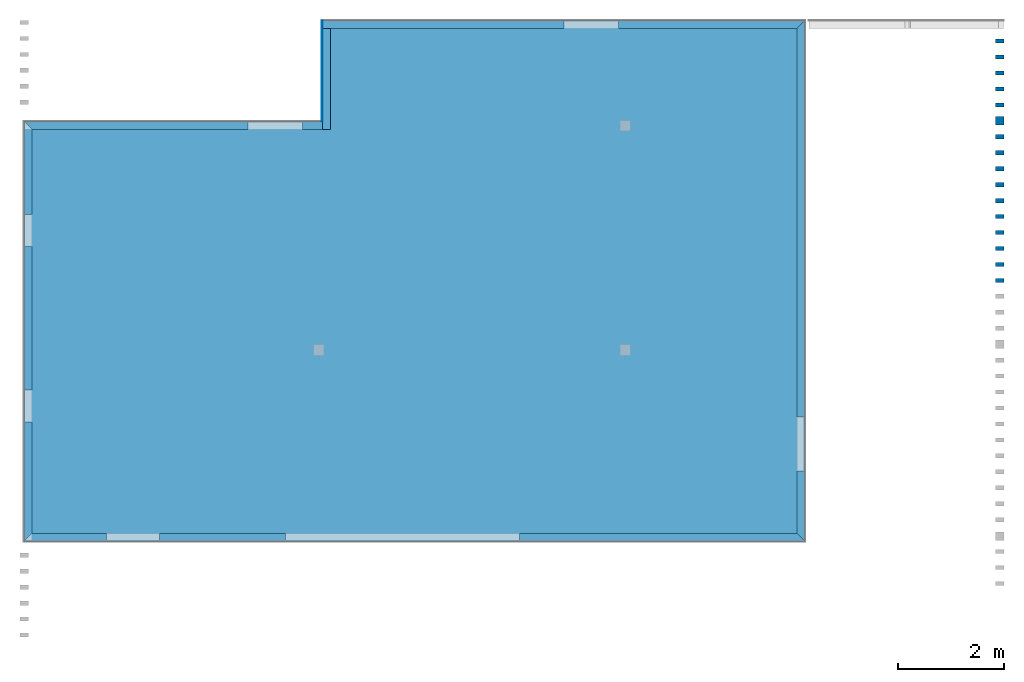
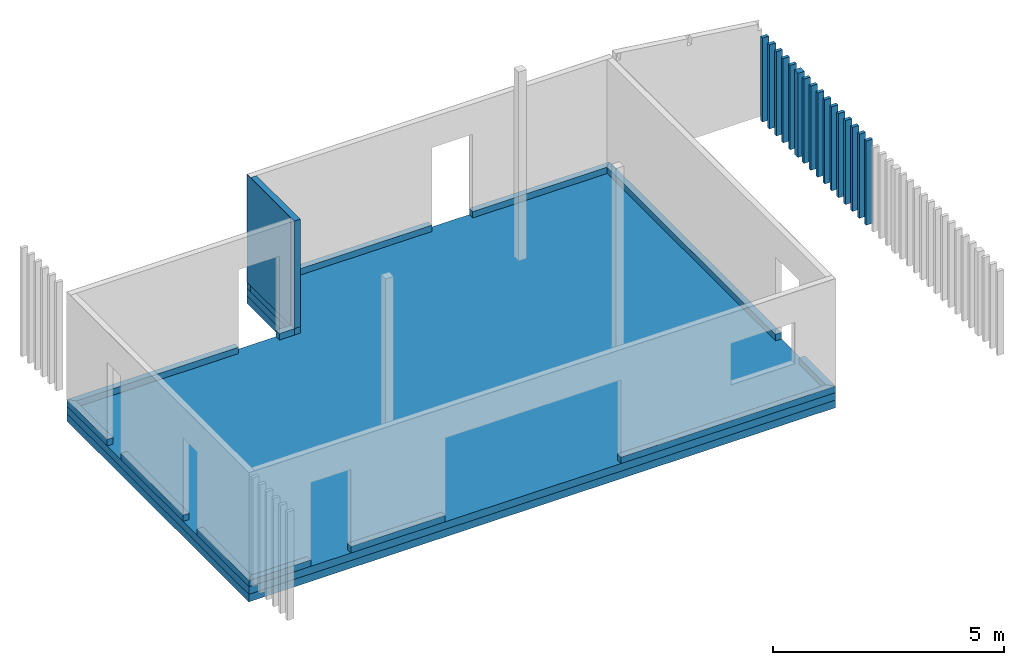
# One storey, part 2 of 3: 16 columns, 6 walls, 4 building element parts, 3 openings, 2 elements without a shape of their own.
"""IFC4 building model written with IfcOpenShell, lengths in centimetres."""

from ifc_helpers import new_model, entity, si_unit, converted_unit, derived_unit, direction, frame, origin, place, context, subcontext, project, spatial, indexed_curve, outline, extrude, polygons, source, transform, mapped, material, type_object, type_shapes, element, aggregate, save


model = new_model("IFC4")

# Units and contexts
model_context = context("Model", 3, precision=0.001, world=origin(), true_north=direction((6.123233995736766e-17, 1.0)))
body_context = subcontext(model_context, "Body", "Model", "MODEL_VIEW")
ifc_project = project(units=[si_unit("LENGTHUNIT", "METRE", prefix="CENTI"), si_unit("AREAUNIT", "SQUARE_METRE"), converted_unit("PLANEANGLEUNIT", "DEGREE", entity("IfcPlaneAngleMeasure", 0.017453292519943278), si_unit("PLANEANGLEUNIT", "RADIAN"), dimensions=[0, 0, 0, 0, 0, 0, 0]), si_unit("VOLUMEUNIT", "CUBIC_METRE"), derived_unit("THERMALTRANSMITTANCEUNIT", [(si_unit("MASSUNIT", "GRAM", prefix="KILO"), 1), (si_unit("THERMODYNAMICTEMPERATUREUNIT", "KELVIN"), -1), (si_unit("TIMEUNIT", "SECOND"), -3)])], contexts=[model_context])

# Site, building, storey
site_placement = place(None, frame((-0.003347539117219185, 0.0, 0.0)))
site = spatial("IfcSite", under=ifc_project, at=site_placement, Name="Default", CompositionType="ELEMENT")
building_placement = place(site_placement, origin())
building = spatial("IfcBuilding", under=site, at=building_placement, CompositionType="ELEMENT")
storey_placement = place(building_placement, frame((0.0, 0.0, 31.0)))
storey = spatial("IfcBuildingStorey", under=building, at=storey_placement, Name="± 0.000", CompositionType="ELEMENT", Elevation=31.000000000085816)

# Columns
ifc_material_1 = material(Name="BM - Douglas", Category="Bois")
column_type_1 = type_object("IfcColumnType", Name="Poteau - Bois d'oeuvre:160x160", PredefinedType="COLUMN", material=ifc_material_1)
shared_shape_1 = source(origin(), body_context, "Body", "SweptSolid", [
    extrude(outline(indexed_curve([(-7.999999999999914, -7.999999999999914), (7.999999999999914, -7.999999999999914), (7.999999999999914, 8.00000000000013), (-7.999999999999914, 8.00000000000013), (-7.999999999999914, -7.999999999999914)], self_intersect=False)), frame((-4953.586652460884, -1881.8758849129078, 51.0), z_axis=(0.0, 0.0, 1.0), x_axis=(-1.0, 0.0, 0.0)), (0.0, 0.0, 1.0), 222.99999999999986),
])
type_shapes(column_type_1, [shared_shape_1])
column_1_placement = place(storey_placement, frame((0.0, 0.0, -31.0)))
element("IfcColumn", 1, at=column_1_placement, inside=storey, type_object=column_type_1, material=ifc_material_1, Name="Poteau - Bois d'oeuvre:160x160", ObjectType="Poteau - Bois d'oeuvre:160x160", PredefinedType="COLUMN", context=body_context, shape_type="MappedRepresentation", body=[
    mapped(shared_shape_1, transform((0.0, 0.0, 0.0), scale=1.0)),
])
column_type_2 = type_object("IfcColumnType", Name="Poteau - Bois d'oeuvre:160x80", PredefinedType="COLUMN", material=ifc_material_1)
shared_shape_2 = source(origin(), body_context, "Body", "SweptSolid", [
    extrude(outline(indexed_curve([(-7.999999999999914, -3.999999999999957), (7.999999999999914, -3.999999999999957), (7.999999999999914, 3.999999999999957), (-7.999999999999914, 3.999999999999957), (-7.999999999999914, -3.999999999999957)], self_intersect=False)), frame((-4953.586652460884, -2181.875884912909, 51.0), z_axis=(0.0, 0.0, 1.0), x_axis=(-1.0, 0.0, 0.0)), (0.0, 0.0, 1.0), 222.99999999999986),
])
type_shapes(column_type_2, [shared_shape_2])
column_2_placement = place(storey_placement, frame((0.0, 0.0, -31.0)))
element("IfcColumn", 2, at=column_2_placement, inside=storey, type_object=column_type_2, material=ifc_material_1, Name="Poteau - Bois d'oeuvre:160x80", ObjectType="Poteau - Bois d'oeuvre:160x80", PredefinedType="COLUMN", context=body_context, shape_type="MappedRepresentation", body=[
    mapped(shared_shape_2, transform((0.0, 0.0, 0.0), scale=1.0)),
])
column_type_3 = type_object("IfcColumnType", Name="Poteau - Bois d'oeuvre:160x80", PredefinedType="COLUMN", material=ifc_material_1)
shared_shape_3 = source(origin(), body_context, "Body", "SweptSolid", [
    extrude(outline(indexed_curve([(-7.999999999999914, -3.999999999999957), (7.999999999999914, -3.999999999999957), (7.999999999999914, 3.999999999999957), (-7.999999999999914, 3.999999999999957), (-7.999999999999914, -3.999999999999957)], self_intersect=False)), frame((-4953.586652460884, -2151.8758849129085, 51.0), z_axis=(0.0, 0.0, 1.0), x_axis=(-1.0, 0.0, 0.0)), (0.0, 0.0, 1.0), 222.99999999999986),
])
type_shapes(column_type_3, [shared_shape_3])
column_3_placement = place(storey_placement, frame((0.0, 0.0, -31.0)))
element("IfcColumn", 3, at=column_3_placement, inside=storey, type_object=column_type_3, material=ifc_material_1, Name="Poteau - Bois d'oeuvre:160x80", ObjectType="Poteau - Bois d'oeuvre:160x80", PredefinedType="COLUMN", context=body_context, shape_type="MappedRepresentation", body=[
    mapped(shared_shape_3, transform((0.0, 0.0, 0.0), scale=1.0)),
])
column_type_4 = type_object("IfcColumnType", Name="Poteau - Bois d'oeuvre:160x80", PredefinedType="COLUMN", material=ifc_material_1)
shared_shape_4 = source(origin(), body_context, "Body", "SweptSolid", [
    extrude(outline(indexed_curve([(-7.999999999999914, -3.999999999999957), (7.999999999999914, -3.999999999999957), (7.999999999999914, 3.999999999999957), (-7.999999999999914, 3.999999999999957), (-7.999999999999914, -3.999999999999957)], self_intersect=False)), frame((-4953.586652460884, -2121.8758849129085, 51.0), z_axis=(0.0, 0.0, 1.0), x_axis=(-1.0, 0.0, 0.0)), (0.0, 0.0, 1.0), 222.99999999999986),
])
type_shapes(column_type_4, [shared_shape_4])
column_4_placement = place(storey_placement, frame((0.0, 0.0, -31.0)))
element("IfcColumn", 4, at=column_4_placement, inside=storey, type_object=column_type_4, material=ifc_material_1, Name="Poteau - Bois d'oeuvre:160x80", ObjectType="Poteau - Bois d'oeuvre:160x80", PredefinedType="COLUMN", context=body_context, shape_type="MappedRepresentation", body=[
    mapped(shared_shape_4, transform((0.0, 0.0, 0.0), scale=1.0)),
])
column_type_5 = type_object("IfcColumnType", Name="Poteau - Bois d'oeuvre:160x80", PredefinedType="COLUMN", material=ifc_material_1)
shared_shape_5 = source(origin(), body_context, "Body", "SweptSolid", [
    extrude(outline(indexed_curve([(-7.999999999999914, -3.999999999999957), (7.999999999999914, -3.999999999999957), (7.999999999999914, 3.999999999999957), (-7.999999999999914, 3.999999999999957), (-7.999999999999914, -3.999999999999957)], self_intersect=False)), frame((-4953.586652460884, -2091.8758849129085, 51.0), z_axis=(0.0, 0.0, 1.0), x_axis=(-1.0, 0.0, 0.0)), (0.0, 0.0, 1.0), 222.99999999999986),
])
type_shapes(column_type_5, [shared_shape_5])
column_5_placement = place(storey_placement, frame((0.0, 0.0, -31.0)))
element("IfcColumn", 5, at=column_5_placement, inside=storey, type_object=column_type_5, material=ifc_material_1, Name="Poteau - Bois d'oeuvre:160x80", ObjectType="Poteau - Bois d'oeuvre:160x80", PredefinedType="COLUMN", context=body_context, shape_type="MappedRepresentation", body=[
    mapped(shared_shape_5, transform((0.0, 0.0, 0.0), scale=1.0)),
])
column_type_6 = type_object("IfcColumnType", Name="Poteau - Bois d'oeuvre:160x80", PredefinedType="COLUMN", material=ifc_material_1)
shared_shape_6 = source(origin(), body_context, "Body", "SweptSolid", [
    extrude(outline(indexed_curve([(-7.999999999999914, -3.999999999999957), (7.999999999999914, -3.999999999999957), (7.999999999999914, 3.999999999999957), (-7.999999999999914, 3.999999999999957), (-7.999999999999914, -3.999999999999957)], self_intersect=False)), frame((-4953.586652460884, -2061.8758849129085, 51.0), z_axis=(0.0, 0.0, 1.0), x_axis=(-1.0, 0.0, 0.0)), (0.0, 0.0, 1.0), 222.99999999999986),
])
type_shapes(column_type_6, [shared_shape_6])
column_6_placement = place(storey_placement, frame((0.0, 0.0, -31.0)))
element("IfcColumn", 6, at=column_6_placement, inside=storey, type_object=column_type_6, material=ifc_material_1, Name="Poteau - Bois d'oeuvre:160x80", ObjectType="Poteau - Bois d'oeuvre:160x80", PredefinedType="COLUMN", context=body_context, shape_type="MappedRepresentation", body=[
    mapped(shared_shape_6, transform((0.0, 0.0, 0.0), scale=1.0)),
])
column_type_7 = type_object("IfcColumnType", Name="Poteau - Bois d'oeuvre:160x80", PredefinedType="COLUMN", material=ifc_material_1)
shared_shape_7 = source(origin(), body_context, "Body", "SweptSolid", [
    extrude(outline(indexed_curve([(-7.999999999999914, -3.999999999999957), (7.999999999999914, -3.999999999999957), (7.999999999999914, 3.999999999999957), (-7.999999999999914, 3.999999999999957), (-7.999999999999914, -3.999999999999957)], self_intersect=False)), frame((-4953.586652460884, -2031.8758849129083, 51.0), z_axis=(0.0, 0.0, 1.0), x_axis=(-1.0, 0.0, 0.0)), (0.0, 0.0, 1.0), 222.99999999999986),
])
type_shapes(column_type_7, [shared_shape_7])
column_7_placement = place(storey_placement, frame((0.0, 0.0, -31.0)))
element("IfcColumn", 7, at=column_7_placement, inside=storey, type_object=column_type_7, material=ifc_material_1, Name="Poteau - Bois d'oeuvre:160x80", ObjectType="Poteau - Bois d'oeuvre:160x80", PredefinedType="COLUMN", context=body_context, shape_type="MappedRepresentation", body=[
    mapped(shared_shape_7, transform((0.0, 0.0, 0.0), scale=1.0)),
])
column_type_8 = type_object("IfcColumnType", Name="Poteau - Bois d'oeuvre:160x80", PredefinedType="COLUMN", material=ifc_material_1)
shared_shape_8 = source(origin(), body_context, "Body", "SweptSolid", [
    extrude(outline(indexed_curve([(-7.999999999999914, -3.999999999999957), (7.999999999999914, -3.999999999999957), (7.999999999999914, 3.999999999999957), (-7.999999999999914, 3.999999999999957), (-7.999999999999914, -3.999999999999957)], self_intersect=False)), frame((-4953.586652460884, -2001.875884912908, 51.0), z_axis=(0.0, 0.0, 1.0), x_axis=(-1.0, 0.0, 0.0)), (0.0, 0.0, 1.0), 222.99999999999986),
])
type_shapes(column_type_8, [shared_shape_8])
column_8_placement = place(storey_placement, frame((0.0, 0.0, -31.0)))
element("IfcColumn", 8, at=column_8_placement, inside=storey, type_object=column_type_8, material=ifc_material_1, Name="Poteau - Bois d'oeuvre:160x80", ObjectType="Poteau - Bois d'oeuvre:160x80", PredefinedType="COLUMN", context=body_context, shape_type="MappedRepresentation", body=[
    mapped(shared_shape_8, transform((0.0, 0.0, 0.0), scale=1.0)),
])
column_type_9 = type_object("IfcColumnType", Name="Poteau - Bois d'oeuvre:160x80", PredefinedType="COLUMN", material=ifc_material_1)
shared_shape_9 = source(origin(), body_context, "Body", "SweptSolid", [
    extrude(outline(indexed_curve([(-7.999999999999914, -3.999999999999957), (7.999999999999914, -3.999999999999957), (7.999999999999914, 3.999999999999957), (-7.999999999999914, 3.999999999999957), (-7.999999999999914, -3.999999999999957)], self_intersect=False)), frame((-4953.586652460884, -1971.875884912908, 51.0), z_axis=(0.0, 0.0, 1.0), x_axis=(-1.0, 0.0, 0.0)), (0.0, 0.0, 1.0), 222.99999999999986),
])
type_shapes(column_type_9, [shared_shape_9])
column_9_placement = place(storey_placement, frame((0.0, 0.0, -31.0)))
element("IfcColumn", 9, at=column_9_placement, inside=storey, type_object=column_type_9, material=ifc_material_1, Name="Poteau - Bois d'oeuvre:160x80", ObjectType="Poteau - Bois d'oeuvre:160x80", PredefinedType="COLUMN", context=body_context, shape_type="MappedRepresentation", body=[
    mapped(shared_shape_9, transform((0.0, 0.0, 0.0), scale=1.0)),
])
column_type_10 = type_object("IfcColumnType", Name="Poteau - Bois d'oeuvre:160x80", PredefinedType="COLUMN", material=ifc_material_1)
shared_shape_10 = source(origin(), body_context, "Body", "SweptSolid", [
    extrude(outline(indexed_curve([(-7.999999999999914, -3.999999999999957), (7.999999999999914, -3.999999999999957), (7.999999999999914, 3.999999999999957), (-7.999999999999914, 3.999999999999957), (-7.999999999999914, -3.999999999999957)], self_intersect=False)), frame((-4953.586652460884, -1941.875884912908, 51.0), z_axis=(0.0, 0.0, 1.0), x_axis=(-1.0, 0.0, 0.0)), (0.0, 0.0, 1.0), 222.99999999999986),
])
type_shapes(column_type_10, [shared_shape_10])
column_10_placement = place(storey_placement, frame((0.0, 0.0, -31.0)))
element("IfcColumn", 10, at=column_10_placement, inside=storey, type_object=column_type_10, material=ifc_material_1, Name="Poteau - Bois d'oeuvre:160x80", ObjectType="Poteau - Bois d'oeuvre:160x80", PredefinedType="COLUMN", context=body_context, shape_type="MappedRepresentation", body=[
    mapped(shared_shape_10, transform((0.0, 0.0, 0.0), scale=1.0)),
])
column_type_11 = type_object("IfcColumnType", Name="Poteau - Bois d'oeuvre:160x80", PredefinedType="COLUMN", material=ifc_material_1)
shared_shape_11 = source(origin(), body_context, "Body", "SweptSolid", [
    extrude(outline(indexed_curve([(-7.999999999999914, -3.999999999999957), (7.999999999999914, -3.999999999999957), (7.999999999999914, 3.999999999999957), (-7.999999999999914, 3.999999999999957), (-7.999999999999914, -3.999999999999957)], self_intersect=False)), frame((-4953.586652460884, -1911.8758849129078, 51.0), z_axis=(0.0, 0.0, 1.0), x_axis=(-1.0, 0.0, 0.0)), (0.0, 0.0, 1.0), 222.99999999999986),
])
type_shapes(column_type_11, [shared_shape_11])
column_11_placement = place(storey_placement, frame((0.0, 0.0, -31.0)))
element("IfcColumn", 11, at=column_11_placement, inside=storey, type_object=column_type_11, material=ifc_material_1, Name="Poteau - Bois d'oeuvre:160x80", ObjectType="Poteau - Bois d'oeuvre:160x80", PredefinedType="COLUMN", context=body_context, shape_type="MappedRepresentation", body=[
    mapped(shared_shape_11, transform((0.0, 0.0, 0.0), scale=1.0)),
])
column_type_12 = type_object("IfcColumnType", Name="Poteau - Bois d'oeuvre:160x80", PredefinedType="COLUMN", material=ifc_material_1)
shared_shape_12 = source(origin(), body_context, "Body", "SweptSolid", [
    extrude(outline(indexed_curve([(-7.999999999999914, -3.999999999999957), (7.999999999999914, -3.999999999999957), (7.999999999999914, 3.999999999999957), (-7.999999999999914, 3.999999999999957), (-7.999999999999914, -3.999999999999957)], self_intersect=False)), frame((-4953.586652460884, -1851.8758849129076, 51.0), z_axis=(0.0, 0.0, 1.0), x_axis=(-1.0, 0.0, 0.0)), (0.0, 0.0, 1.0), 222.99999999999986),
])
type_shapes(column_type_12, [shared_shape_12])
column_12_placement = place(storey_placement, frame((0.0, 0.0, -31.0)))
element("IfcColumn", 12, at=column_12_placement, inside=storey, type_object=column_type_12, material=ifc_material_1, Name="Poteau - Bois d'oeuvre:160x80", ObjectType="Poteau - Bois d'oeuvre:160x80", PredefinedType="COLUMN", context=body_context, shape_type="MappedRepresentation", body=[
    mapped(shared_shape_12, transform((0.0, 0.0, 0.0), scale=1.0)),
])
column_type_13 = type_object("IfcColumnType", Name="Poteau - Bois d'oeuvre:160x80", PredefinedType="COLUMN", material=ifc_material_1)
shared_shape_13 = source(origin(), body_context, "Body", "SweptSolid", [
    extrude(outline(indexed_curve([(-7.999999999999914, -3.999999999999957), (7.999999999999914, -3.999999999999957), (7.999999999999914, 3.999999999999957), (-7.999999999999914, 3.999999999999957), (-7.999999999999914, -3.999999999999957)], self_intersect=False)), frame((-4953.586652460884, -1821.8758849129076, 51.0), z_axis=(0.0, 0.0, 1.0), x_axis=(-1.0, 0.0, 0.0)), (0.0, 0.0, 1.0), 222.99999999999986),
])
type_shapes(column_type_13, [shared_shape_13])
column_13_placement = place(storey_placement, frame((0.0, 0.0, -31.0)))
element("IfcColumn", 13, at=column_13_placement, inside=storey, type_object=column_type_13, material=ifc_material_1, Name="Poteau - Bois d'oeuvre:160x80", ObjectType="Poteau - Bois d'oeuvre:160x80", PredefinedType="COLUMN", context=body_context, shape_type="MappedRepresentation", body=[
    mapped(shared_shape_13, transform((0.0, 0.0, 0.0), scale=1.0)),
])
column_type_14 = type_object("IfcColumnType", Name="Poteau - Bois d'oeuvre:160x80", PredefinedType="COLUMN", material=ifc_material_1)
shared_shape_14 = source(origin(), body_context, "Body", "SweptSolid", [
    extrude(outline(indexed_curve([(-7.999999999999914, -3.999999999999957), (7.999999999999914, -3.999999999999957), (7.999999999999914, 3.999999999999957), (-7.999999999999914, 3.999999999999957), (-7.999999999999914, -3.999999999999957)], self_intersect=False)), frame((-4953.586652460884, -1791.8758849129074, 51.0), z_axis=(0.0, 0.0, 1.0), x_axis=(-1.0, 0.0, 0.0)), (0.0, 0.0, 1.0), 222.99999999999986),
])
type_shapes(column_type_14, [shared_shape_14])
column_14_placement = place(storey_placement, frame((0.0, 0.0, -31.0)))
element("IfcColumn", 14, at=column_14_placement, inside=storey, type_object=column_type_14, material=ifc_material_1, Name="Poteau - Bois d'oeuvre:160x80", ObjectType="Poteau - Bois d'oeuvre:160x80", PredefinedType="COLUMN", context=body_context, shape_type="MappedRepresentation", body=[
    mapped(shared_shape_14, transform((0.0, 0.0, 0.0), scale=1.0)),
])
column_type_15 = type_object("IfcColumnType", Name="Poteau - Bois d'oeuvre:160x80", PredefinedType="COLUMN", material=ifc_material_1)
shared_shape_15 = source(origin(), body_context, "Body", "SweptSolid", [
    extrude(outline(indexed_curve([(-7.999999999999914, -3.999999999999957), (7.999999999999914, -3.999999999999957), (7.999999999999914, 3.999999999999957), (-7.999999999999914, 3.999999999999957), (-7.999999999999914, -3.999999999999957)], self_intersect=False)), frame((-4953.586652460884, -1761.8758849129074, 51.0), z_axis=(0.0, 0.0, 1.0), x_axis=(-1.0, 0.0, 0.0)), (0.0, 0.0, 1.0), 222.99999999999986),
])
type_shapes(column_type_15, [shared_shape_15])
column_15_placement = place(storey_placement, frame((0.0, 0.0, -31.0)))
element("IfcColumn", 15, at=column_15_placement, inside=storey, type_object=column_type_15, material=ifc_material_1, Name="Poteau - Bois d'oeuvre:160x80", ObjectType="Poteau - Bois d'oeuvre:160x80", PredefinedType="COLUMN", context=body_context, shape_type="MappedRepresentation", body=[
    mapped(shared_shape_15, transform((0.0, 0.0, 0.0), scale=1.0)),
])
column_type_16 = type_object("IfcColumnType", Name="Poteau - Bois d'oeuvre:160x80", PredefinedType="COLUMN", material=ifc_material_1)
shared_shape_16 = source(origin(), body_context, "Body", "SweptSolid", [
    extrude(outline(indexed_curve([(-7.999999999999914, -3.999999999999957), (7.999999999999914, -3.999999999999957), (7.999999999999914, 3.999999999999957), (-7.999999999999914, 3.999999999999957), (-7.999999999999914, -3.999999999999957)], self_intersect=False)), frame((-4953.586652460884, -1731.8758849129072, 51.0), z_axis=(0.0, 0.0, 1.0), x_axis=(-1.0, 0.0, 0.0)), (0.0, 0.0, 1.0), 222.99999999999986),
])
type_shapes(column_type_16, [shared_shape_16])
column_16_placement = place(storey_placement, frame((0.0, 0.0, -31.0)))
element("IfcColumn", 16, at=column_16_placement, inside=storey, type_object=column_type_16, material=ifc_material_1, Name="Poteau - Bois d'oeuvre:160x80", ObjectType="Poteau - Bois d'oeuvre:160x80", PredefinedType="COLUMN", context=body_context, shape_type="MappedRepresentation", body=[
    mapped(shared_shape_16, transform((0.0, 0.0, 0.0), scale=1.0)),
])

# Walls
ifc_material_2 = material(Name="Béton C20/25")
wall_type_1 = type_object("IfcWallType", Name="Mur de base:Relevé 15 cm", PredefinedType="STANDARD")
wall_1_placement = place(storey_placement, frame((-6781.086652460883, -1882.875884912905, -2.0), z_axis=(0.0, 0.0, 1.0), x_axis=(0.0, -1.0, 0.0)))
element("IfcWall", 17, at=wall_1_placement, inside=storey, type_object=wall_type_1, material=ifc_material_2, Name="Mur de base:Relevé 15 cm", ObjectType="Mur de base:Relevé 15 cm", PredefinedType="NOTDEFINED", context=body_context, shape_type="SweptSolid", body=[
    extrude(outline(indexed_curve([(-91.25000000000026, -7.5000000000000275), (83.75000000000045, -7.5000000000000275), (83.75000000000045, 7.5000000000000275), (-76.25000000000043, 7.5000000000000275), (-91.25000000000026, -7.5000000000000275)], self_intersect=False)), frame((91.25000000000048, 0.0, 0.0)), (0.0, 0.0, 1.0), 17.0),
    extrude(outline(indexed_curve([(-101.24999999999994, -7.5000000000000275), (108.74999999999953, -7.5000000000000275), (108.74999999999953, 7.5000000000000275), (-116.24999999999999, 7.5000000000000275), (-101.24999999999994, -7.5000000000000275)], self_intersect=False)), frame((673.7500000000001, 0.0, 0.0), z_axis=(0.0, 0.0, 1.0), x_axis=(-1.0, 0.0, 0.0)), (0.0, 0.0, 1.0), 17.0),
    extrude(outline(indexed_curve([(-135.00000000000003, -7.500000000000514), (135.00000000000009, -7.500000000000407), (135.00000000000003, 7.499999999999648), (-135.00000000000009, 7.49999999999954), (-135.00000000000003, -7.500000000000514)], self_intersect=False)), frame((370.0, 0.0, 0.0)), (0.0, 0.0, 1.0), 17.0),
])
wall_2_placement = place(storey_placement, frame((-6788.586652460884, -2665.375884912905, -2.0)))
element("IfcWall", 18, at=wall_2_placement, inside=storey, type_object=wall_type_1, material=ifc_material_2, Name="Mur de base:Relevé 15 cm", ObjectType="Mur de base:Relevé 15 cm", PredefinedType="NOTDEFINED", context=body_context, shape_type="SweptSolid", body=[
    extrude(outline(indexed_curve([(-81.24999999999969, -7.499999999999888), (73.74999999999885, -7.499999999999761), (73.74999999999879, 7.500000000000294), (-66.24999999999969, 7.500000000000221), (-81.24999999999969, -7.499999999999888)], self_intersect=False)), frame((81.24999999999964, 0.0, 0.0)), (0.0, 0.0, 1.0), 17.0),
    extrude(outline(indexed_curve([(-257.50000000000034, -7.499999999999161), (265.0000000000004, -7.5000000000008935), (265.0000000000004, 7.499999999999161), (-272.5000000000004, 7.5000000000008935), (-257.50000000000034, -7.499999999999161)], self_intersect=False)), frame((1196.500000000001, 0.0, 0.0), z_axis=(0.0, 0.0, 1.0), x_axis=(-1.0, 0.0, 0.0)), (0.0, 0.0, 1.0), 17.0),
    extrude(outline(indexed_curve([(-118.25000000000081, -7.500000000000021), (118.25000000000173, -7.500000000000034), (118.25000000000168, 7.500000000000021), (-118.25000000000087, 7.500000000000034), (-118.25000000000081, -7.500000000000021)], self_intersect=False)), frame((373.25, 0.0, 0.0), z_axis=(0.0, 0.0, 1.0), x_axis=(-1.0, 0.0, 0.0)), (0.0, 0.0, 1.0), 17.0),
])

# Wall, opening
wall_3_placement = place(storey_placement, frame((-5327.086652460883, -2672.87588491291, -2.0), z_axis=(0.0, 0.0, 1.0), x_axis=(0.0, 1.0, 0.0)))
wall_3 = element("IfcWall", 19, at=wall_3_placement, inside=storey, type_object=wall_type_1, material=ifc_material_2, Name="Mur de base:Relevé 15 cm", ObjectType="Mur de base:Relevé 15 cm", PredefinedType="NOTDEFINED", context=body_context, shape_type="Tessellation", body=[
    polygons([(0.0, -7.50000000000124, 16.999999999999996), (0.0, -7.50000000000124, -3.383959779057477e-15), (132.49999999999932, -7.500000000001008, -3.383959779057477e-15), (132.49999999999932, -7.500000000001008, 16.999999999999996), (14.999999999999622, 7.499999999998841, -3.383959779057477e-15), (132.49999999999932, 7.499999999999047, -3.383959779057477e-15), (14.999999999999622, 7.499999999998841, 16.999999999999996), (132.49999999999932, 7.499999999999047, 16.999999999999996)], [[[1, 2, 3, 4]], [[2, 5, 6, 3]], [[2, 1, 7, 5]], [[4, 3, 6, 8]], [[7, 1, 4, 8]], [[5, 7, 8, 6]]], closed=True),
    polygons([(964.9999999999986, 7.499999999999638, 16.999999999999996), (964.9999999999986, 7.499999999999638, -3.383959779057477e-15), (234.4999999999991, 7.4999999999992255, -3.383959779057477e-15), (234.4999999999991, 7.4999999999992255, 16.999999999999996), (979.9999999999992, -7.500000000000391, 16.999999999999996), (234.4999999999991, -7.50000000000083, 16.999999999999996), (979.9999999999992, -7.500000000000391, -3.383959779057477e-15), (234.4999999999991, -7.50000000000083, -3.383959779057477e-15)], [[[1, 2, 3, 4]], [[5, 1, 4, 6]], [[5, 7, 2, 1]], [[8, 6, 4, 3]], [[2, 7, 8, 3]], [[7, 5, 6, 8]]], closed=True),
])
opening_1_placement = place(wall_3_placement, frame((2672.87588491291, -5327.086652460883, 2.0), z_axis=(0.0, 0.0, 1.0), x_axis=(0.0, -1.0, 0.0)))
element("IfcOpeningElement", 20, at=opening_1_placement, cuts=wall_3, Name="Mur de base:Relevé 15 cm", PredefinedType="OPENING", context=body_context, shape_type="SweptSolid", body=[
    extrude(outline(indexed_curve([(-111.0, -51.0000000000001), (111.0, -51.0000000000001), (111.0, 50.999999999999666), (-111.0, 50.999999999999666), (-111.0, -51.0000000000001)], self_intersect=False)), frame((-5182.186652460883, -2489.3758849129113, 109.0), z_axis=(-1.0, 0.0, 0.0), x_axis=(0.0, 0.0, -1.0)), (0.0, 0.0, 1.0), 304.8),
])

wall_4_placement = place(storey_placement, frame((-5319.586652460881, -1700.375884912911, -2.0), z_axis=(0.0, 0.0, 1.0), x_axis=(-1.0, 0.0, 0.0)))
wall_4 = element("IfcWall", 21, at=wall_4_placement, inside=storey, type_object=wall_type_1, material=ifc_material_2, Name="Mur de base:Relevé 15 cm", ObjectType="Mur de base:Relevé 15 cm", PredefinedType="NOTDEFINED", context=body_context, shape_type="Tessellation", body=[
    polygons([(-3.929653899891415e-13, -7.5000000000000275, 16.999999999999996), (-3.929653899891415e-13, -7.5000000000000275, -3.383959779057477e-15), (338.00000000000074, -7.5000000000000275, -3.383959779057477e-15), (351.4000000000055, -7.5000000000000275, -3.383959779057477e-15), (351.4000000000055, -7.5000000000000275, 16.999999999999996), (338.00000000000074, -7.5000000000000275, 16.999999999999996), (14.999999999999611, 7.5000000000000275, -3.383959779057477e-15), (338.0000000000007, 7.5000000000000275, -3.383959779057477e-15), (351.40000000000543, 7.5000000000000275, -3.383959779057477e-15), (14.999999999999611, 7.5000000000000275, 16.999999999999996), (351.40000000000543, 7.5000000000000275, 16.999999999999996)], [[[1, 2, 3, 4, 5, 6]], [[2, 7, 8, 9, 4, 3]], [[2, 1, 10, 7]], [[5, 4, 9, 11]], [[10, 1, 6, 5, 11]], [[7, 10, 11, 9, 8]]], closed=True),
    polygons([(908.0000000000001, 7.5000000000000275, 16.999999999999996), (908.0000000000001, 7.5000000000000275, -3.383959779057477e-15), (892.9999999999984, 7.5000000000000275, -3.383959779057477e-15), (453.40000000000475, 7.499999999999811, -3.383959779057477e-15), (453.40000000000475, 7.499999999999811, 16.999999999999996), (892.9999999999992, 7.5000000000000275, 16.999999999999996), (908.0000000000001, -7.5000000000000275, 16.999999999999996), (453.40000000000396, -7.500000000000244, 16.999999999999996), (908.0000000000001, -7.5000000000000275, -3.383959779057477e-15), (453.40000000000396, -7.500000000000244, -3.383959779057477e-15)], [[[1, 2, 3, 4, 5, 6]], [[7, 1, 6, 5, 8]], [[7, 9, 2, 1]], [[10, 8, 5, 4]], [[2, 9, 10, 4, 3]], [[9, 7, 8, 10]]], closed=True),
])
opening_2_placement = place(wall_4_placement, frame((-5319.586652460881, -1700.375884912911, 2.0), z_axis=(0.0, 0.0, 1.0), x_axis=(-1.0, 0.0, 0.0)))
element("IfcOpeningElement", 22, at=opening_2_placement, cuts=wall_4, Name="Mur de base:Relevé 15 cm", PredefinedType="OPENING", context=body_context, shape_type="SweptSolid", body=[
    extrude(outline(indexed_curve([(-50.999999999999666, -111.0), (51.00000000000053, -111.0), (51.00000000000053, 111.0), (-50.999999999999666, 111.0), (-50.999999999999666, -111.0)], self_intersect=False)), frame((-5721.986652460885, -1540.4758849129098, 109.0), z_axis=(0.0, -1.0, 0.0), x_axis=(-1.0, 0.0, 0.0)), (0.0, 0.0, 1.0), 304.8),
])

# Wall
wall_5_placement = place(storey_placement, frame((-6220.086652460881, -1707.875884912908, -2.0), z_axis=(0.0, 0.0, 1.0), x_axis=(0.0, -1.0, 0.0)))
element("IfcWall", 23, at=wall_5_placement, inside=storey, type_object=wall_type_1, material=ifc_material_2, Name="Mur de base:Relevé 15 cm", ObjectType="Mur de base:Relevé 15 cm", PredefinedType="NOTDEFINED", context=body_context, shape_type="SweptSolid", body=[
    extrude(outline(indexed_curve([(189.99999999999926, 7.5000000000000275), (0.0, 7.5000000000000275), (0.0, -7.5000000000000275), (189.99999999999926, -7.5000000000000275), (189.99999999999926, 7.5000000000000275)], self_intersect=False)), origin(), (0.0, 0.0, 1.0), 17.000000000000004),
])

# Wall, opening
wall_6_placement = place(storey_placement, frame((-6227.586652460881, -1890.3758849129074, -2.0), z_axis=(0.0, 0.0, 1.0), x_axis=(-1.0, 0.0, 0.0)))
wall_6 = element("IfcWall", 24, at=wall_6_placement, inside=storey, type_object=wall_type_1, material=ifc_material_2, Name="Mur de base:Relevé 15 cm", ObjectType="Mur de base:Relevé 15 cm", PredefinedType="NOTDEFINED", context=body_context, shape_type="Tessellation", body=[
    polygons([(37.500000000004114, -7.499999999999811, 16.999999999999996), (5.148418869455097e-13, -7.5000000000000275, 16.999999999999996), (5.148418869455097e-13, -7.5000000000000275, -3.383959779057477e-15), (37.500000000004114, -7.499999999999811, -3.383959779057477e-15), (4.568311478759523e-13, 7.5000000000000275, -3.383959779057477e-15), (37.50000000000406, 7.500000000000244, -3.383959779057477e-15), (37.50000000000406, 7.500000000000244, 16.999999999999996), (4.568311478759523e-13, 7.5000000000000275, 16.999999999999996), (0.6999999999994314, 7.5000000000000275, 16.999999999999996)], [[[1, 2, 3, 4]], [[3, 5, 6, 4]], [[1, 4, 6, 7]], [[3, 2, 8, 5]], [[2, 1, 7, 9, 8]], [[8, 9, 7, 6, 5]]], closed=True),
    polygons([(546.0000000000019, 7.5000000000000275, 16.999999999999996), (546.0000000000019, 7.5000000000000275, -3.383959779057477e-15), (139.50000000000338, 7.5000000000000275, -3.383959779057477e-15), (139.50000000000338, 7.5000000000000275, 16.999999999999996), (561.000000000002, -7.5000000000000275, 16.999999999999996), (139.50000000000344, -7.499999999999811, 16.999999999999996), (561.000000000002, -7.5000000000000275, -3.383959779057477e-15), (139.50000000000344, -7.499999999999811, -3.383959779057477e-15)], [[[1, 2, 3, 4]], [[5, 1, 4, 6]], [[5, 7, 2, 1]], [[8, 6, 4, 3]], [[2, 7, 8, 3]], [[7, 5, 6, 8]]], closed=True),
])
opening_3_placement = place(wall_6_placement, frame((-6227.586652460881, -1890.3758849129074, 2.0), z_axis=(0.0, 0.0, 1.0), x_axis=(-1.0, 0.0, 0.0)))
element("IfcOpeningElement", 25, at=opening_3_placement, cuts=wall_6, Name="Mur de base:Relevé 15 cm", PredefinedType="OPENING", context=body_context, shape_type="SweptSolid", body=[
    extrude(outline(indexed_curve([(-111.0, -50.999999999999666), (111.0, -50.999999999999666), (111.0, 51.00000000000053), (-111.0, 51.00000000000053), (-111.0, -50.999999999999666)], self_intersect=False)), frame((-6316.086652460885, -1745.475884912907, 109.0), z_axis=(0.0, -1.0, 0.0), x_axis=(0.0, 0.0, -1.0)), (0.0, 0.0, 1.0), 304.79999999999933),
])

# Slab, building element parts
slab_type = type_object("IfcSlabType", Name="Sol:Dalle béton  20 cm", PredefinedType="FLOOR")
slab_placement = place(storey_placement, origin())
slab = element("IfcSlab", 26, at=slab_placement, inside=storey, type_object=slab_type, Name="Sol:Dalle béton  20 cm", ObjectType="Sol:Dalle béton  20 cm", PredefinedType="FLOOR")
building_element_part_1_placement = place(slab_placement, origin())
building_element_part_1 = element("IfcBuildingElementPart", 27, at=building_element_part_1_placement, material=ifc_material_2, Name="Béton C20/25", context=body_context, shape_type="SweptSolid", body=[
    extrude(outline(indexed_curve([(-200.00000000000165, -676.6666666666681), (589.9999999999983, -676.6666666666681), (590.0000000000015, 792.3333333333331), (-389.9999999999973, 792.3333333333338), (-389.9999999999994, -115.66666666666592), (-200.00000000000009, -115.6666666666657), (-200.00000000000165, -676.6666666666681)], self_intersect=False)), frame((-6111.919985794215, -2082.8758849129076, -22.0), z_axis=(0.0, 0.0, 1.0), x_axis=(0.0, -1.0, 0.0)), (0.0, 0.0, 1.0), 20.0),
])
ifc_material_3 = material(Name="Isolant rigide", Category="Générique")
building_element_part_2_placement = place(slab_placement, origin())
building_element_part_2 = element("IfcBuildingElementPart", 28, at=building_element_part_2_placement, material=ifc_material_3, Name="Isolant rigide", context=body_context, shape_type="SweptSolid", body=[
    extrude(outline(indexed_curve([(-200.00000000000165, -676.6666666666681), (589.9999999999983, -676.6666666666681), (590.0000000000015, 792.3333333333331), (-389.9999999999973, 792.3333333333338), (-389.9999999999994, -115.66666666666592), (-200.00000000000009, -115.6666666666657), (-200.00000000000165, -676.6666666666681)], self_intersect=False)), frame((-6111.919985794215, -2082.8758849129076, -42.0), z_axis=(0.0, 0.0, 1.0), x_axis=(0.0, -1.0, 0.0)), (0.0, 0.0, 1.0), 20.0),
])
aggregate(slab, [building_element_part_1, building_element_part_2])

# Wall, building element parts
wall_type_2 = type_object("IfcWallType", Name="Mur de base:MOB - 145+12 mm", PredefinedType="STANDARD")
wall_7_placement = place(storey_placement, frame((-6220.43665246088, -1707.875884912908, -31.0), z_axis=(0.0, 0.0, 1.0), x_axis=(0.0, -1.0, 0.0)))
wall_7 = element("IfcWall", 29, at=wall_7_placement, inside=storey, type_object=wall_type_2, Name="Mur de base:MOB - 145+12 mm", ObjectType="Mur de base:MOB - 145+12 mm", PredefinedType="NOTDEFINED")
ifc_material_4 = material(Name="Panneau de grandes particules orientées", Category="Bois")
building_element_part_3_placement = place(wall_7_placement, origin())
building_element_part_3 = element("IfcBuildingElementPart", 30, at=building_element_part_3_placement, material=ifc_material_4, Name="Panneau de grandes particules orientées", context=body_context, shape_type="SweptSolid", body=[
    extrude(outline(indexed_curve([(-94.99999999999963, -0.5999999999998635), (94.9999999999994, -0.5999999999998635), (94.9999999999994, 0.5999999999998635), (-94.99999999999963, 0.5999999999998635), (-94.99999999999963, -0.5999999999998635)], self_intersect=False)), frame((80.49999999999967, -7.250000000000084, 46.0)), (0.0, 0.0, 1.0), 285.0),
])
ifc_material_5 = material(Name="Structure, couche de solives/chevrons en bois d'oeuvre", Category="Divers")
building_element_part_4_placement = place(wall_7_placement, origin())
building_element_part_4 = element("IfcBuildingElementPart", 31, at=building_element_part_4_placement, material=ifc_material_5, Name="Structure, couche de solives/chevrons en bois d'oeuvre", context=body_context, shape_type="SweptSolid", body=[
    extrude(outline(indexed_curve([(-94.9999999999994, -7.25000000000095), (94.99999999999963, -7.25000000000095), (94.99999999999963, 7.2499999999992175), (-94.9999999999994, 7.2499999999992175), (-94.9999999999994, -7.25000000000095)], self_intersect=False)), frame((95.0, 0.6000000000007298, 46.0)), (0.0, 0.0, 1.0), 285.0),
])
aggregate(wall_7, [building_element_part_3, building_element_part_4])

save(model, "model.ifc")
